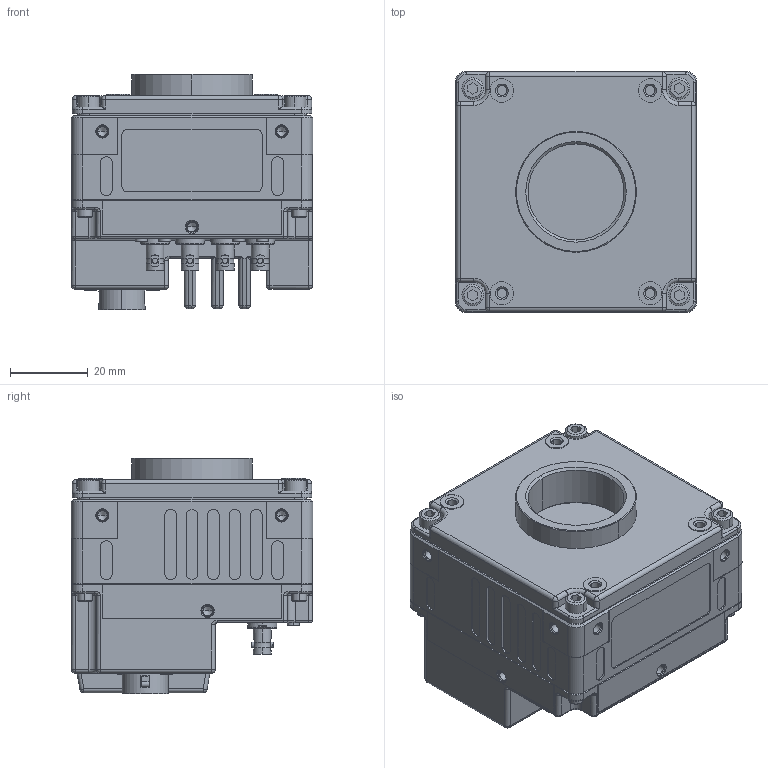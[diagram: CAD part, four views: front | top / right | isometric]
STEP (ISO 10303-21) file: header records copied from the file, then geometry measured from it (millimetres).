
FILE_DESCRIPTION((''),'2;1');
FILE_NAME('PRT0002_ASM','2020-12-11T15:46:11',('aso'),(''),'CREO PARAMETRIC BY PTC INC, 2019080','CREO PARAMETRIC BY PTC INC, 2019080','');
FILE_SCHEMA(('CONFIG_CONTROL_DESIGN'));
Products named in the file (1): PRT0002_ASM
Bounding box: 62 x 62 x 60.5 mm (x, y, z)
Volume: 158125.2 mm3; surface area: 32878.9 mm2
Topology: 1 solids, 14 shells, 1619 faces, 4480 edges, 2867 vertices
Faces by surface type: cylinder 612, plane 612, cone 169, bspline 122, sphere 55, torus 49
Entity records: 62211 total; most frequent: CARTESIAN_POINT 21894, ORIENTED_EDGE 8720, DIRECTION 8081, EDGE_CURVE 4385, AXIS2_PLACEMENT_3D 3016, VERTEX_POINT 2867, VECTOR 2049, LINE 2049
